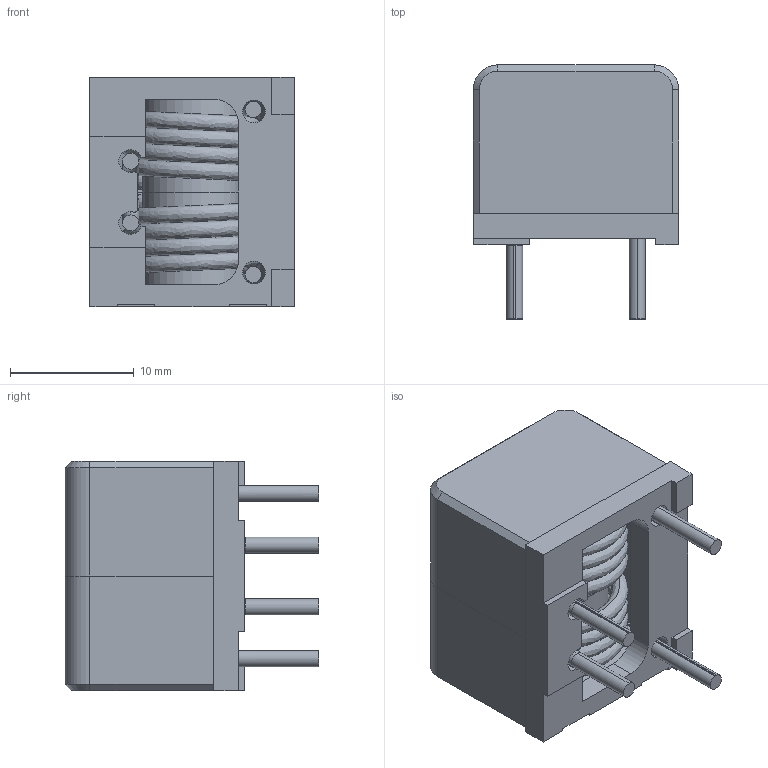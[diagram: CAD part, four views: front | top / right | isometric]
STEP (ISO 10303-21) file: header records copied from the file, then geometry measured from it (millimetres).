
FILE_DESCRIPTION (( 'STEP AP203' ), '1' );
FILE_NAME ('PM9539NL 16#.STEP', '2021-07-02T07:01:46', ( '' ), ( '' ), 'SwSTEP 2.0', 'SolidWorks 2015', '' );
FILE_SCHEMA (( 'CONFIG_CONTROL_DESIGN' ));
Length unit declared in the file: millimetre
Products named in the file (4): 032-PM9539NL; xianquan-PM9539NL-16#; PM9539NL 16#; 043-PM9539NL MX5
Assembly tree (4 placements, depth 2):
  PM9539NL 16#
    043-PM9539NL MX5
    032-PM9539NL  x2
    xianquan-PM9539NL-16#
Bounding box: 16.6 x 20.5 x 18.5 mm (x, y, z)
Volume: 3401.6 mm3; surface area: 4446.6 mm2
Topology: 5 solids, 5 shells, 163 faces, 426 edges, 269 vertices
Faces by surface type: plane 82, cylinder 56, torus 15, bspline 6, cone 4
Entity records: 7311 total; most frequent: CARTESIAN_POINT 3364, ORIENTED_EDGE 746, DIRECTION 737, EDGE_CURVE 373, AXIS2_PLACEMENT_3D 258, VERTEX_POINT 235, LINE 221, VECTOR 221
